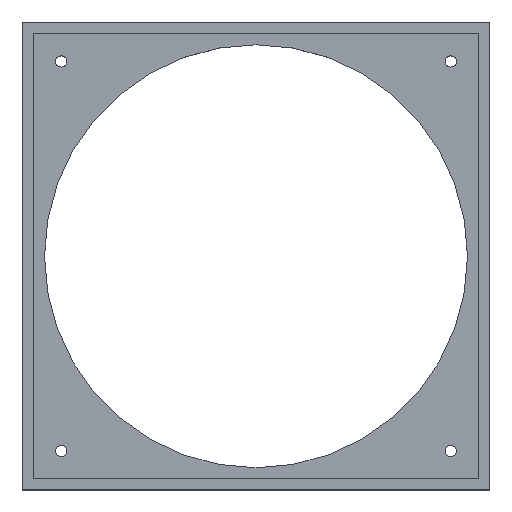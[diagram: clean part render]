
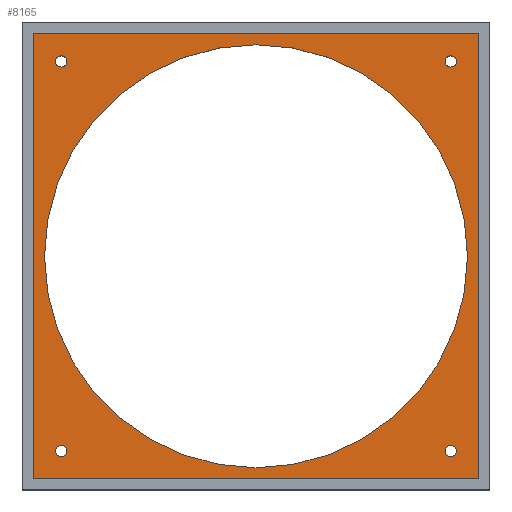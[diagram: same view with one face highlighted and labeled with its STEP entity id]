
A CAD part, top view. The second image highlights one B-rep face of the part: STEP entity #8165.
In plain terms, the highlighted planar face has unit normal (0, 0, 1).
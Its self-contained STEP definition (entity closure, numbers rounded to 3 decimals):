
#34 = VERTEX_POINT ( 'NONE', #10968 ) ;
#116 = VERTEX_POINT ( 'NONE', #5018 ) ;
#151 = CARTESIAN_POINT ( 'NONE',  ( 0., 0., 0. ) ) ;
#201 = VECTOR ( 'NONE', #11989, 1000. ) ;
#281 = ORIENTED_EDGE ( 'NONE', *, *, #5212, .T. ) ;
#1150 = VERTEX_POINT ( 'NONE', #12320 ) ;
#1435 = LINE ( 'NONE', #12154, #2696 ) ;
#1773 = AXIS2_PLACEMENT_3D ( 'NONE', #4105, #2069, #2257 ) ;
#1814 = VECTOR ( 'NONE', #9642, 1000. ) ;
#1980 = CARTESIAN_POINT ( 'NONE',  ( 54., -52.5, 0. ) ) ;
#2044 = AXIS2_PLACEMENT_3D ( 'NONE', #3374, #2361, #2418 ) ;
#2069 = DIRECTION ( 'NONE',  ( 0., 0., -1. ) ) ;
#2257 = DIRECTION ( 'NONE',  ( -1., 0., 0. ) ) ;
#2315 = AXIS2_PLACEMENT_3D ( 'NONE', #4491, #7216, #11081 ) ;
#2328 = ORIENTED_EDGE ( 'NONE', *, *, #10585, .T. ) ;
#2361 = DIRECTION ( 'NONE',  ( 0., 0., -1. ) ) ;
#2418 = DIRECTION ( 'NONE',  ( -1., 0., 0. ) ) ;
#2441 = EDGE_CURVE ( 'NONE', #12366, #7982, #6724, .T. ) ;
#2468 = CARTESIAN_POINT ( 'NONE',  ( 51., -52.5, 0. ) ) ;
#2477 = DIRECTION ( 'NONE',  ( -1., 0., 0. ) ) ;
#2538 = CARTESIAN_POINT ( 'NONE',  ( 0., 0., 0. ) ) ;
#2570 = EDGE_CURVE ( 'NONE', #7982, #116, #4307, .T. ) ;
#2595 = CARTESIAN_POINT ( 'NONE',  ( 51., 52.5, 0. ) ) ;
#2604 = ORIENTED_EDGE ( 'NONE', *, *, #2570, .T. ) ;
#2667 = DIRECTION ( 'NONE',  ( 0., 0., -1. ) ) ;
#2696 = VECTOR ( 'NONE', #8220, 1000. ) ;
#2842 = CARTESIAN_POINT ( 'NONE',  ( -51., -52.5, 0. ) ) ;
#3111 = CARTESIAN_POINT ( 'NONE',  ( -54., -52.5, 0. ) ) ;
#3213 = CARTESIAN_POINT ( 'NONE',  ( 57., 0., 0. ) ) ;
#3374 = CARTESIAN_POINT ( 'NONE',  ( 52.5, 52.5, 0. ) ) ;
#3676 = DIRECTION ( 'NONE',  ( -1., 0., 0. ) ) ;
#3698 = FACE_BOUND ( 'NONE', #5281, .T. ) ;
#3801 = CARTESIAN_POINT ( 'NONE',  ( -52.5, -52.5, 0. ) ) ;
#3908 = EDGE_CURVE ( 'NONE', #4359, #34, #10369, .T. ) ;
#3952 = FACE_BOUND ( 'NONE', #8785, .T. ) ;
#4105 = CARTESIAN_POINT ( 'NONE',  ( -52.5, 52.5, 0. ) ) ;
#4124 = EDGE_CURVE ( 'NONE', #10016, #12196, #7965, .T. ) ;
#4266 = DIRECTION ( 'NONE',  ( 0., 0., -1. ) ) ;
#4299 = FACE_BOUND ( 'NONE', #9566, .T. ) ;
#4307 = LINE ( 'NONE', #9182, #201 ) ;
#4359 = VERTEX_POINT ( 'NONE', #3213 ) ;
#4381 = CARTESIAN_POINT ( 'NONE',  ( 54., 52.5, 0. ) ) ;
#4383 = ORIENTED_EDGE ( 'NONE', *, *, #6607, .T. ) ;
#4416 = EDGE_CURVE ( 'NONE', #1150, #12366, #1435, .T. ) ;
#4491 = CARTESIAN_POINT ( 'NONE',  ( -52.5, -52.5, 0. ) ) ;
#4660 = CIRCLE ( 'NONE', #11756, 1.5 ) ;
#4776 = LINE ( 'NONE', #6858, #9583 ) ;
#4787 = DIRECTION ( 'NONE',  ( -1., 0., 0. ) ) ;
#4809 = CIRCLE ( 'NONE', #11906, 1.5 ) ;
#4907 = AXIS2_PLACEMENT_3D ( 'NONE', #151, #8891, #5913 ) ;
#4976 = DIRECTION ( 'NONE',  ( 0., 0., -1. ) ) ;
#5018 = CARTESIAN_POINT ( 'NONE',  ( -60., -60., 0. ) ) ;
#5212 = EDGE_CURVE ( 'NONE', #34, #4359, #8304, .T. ) ;
#5281 = EDGE_LOOP ( 'NONE', ( #8481, #4383 ) ) ;
#5291 = AXIS2_PLACEMENT_3D ( 'NONE', #6166, #4266, #2477 ) ;
#5345 = ORIENTED_EDGE ( 'NONE', *, *, #9508, .T. ) ;
#5371 = EDGE_CURVE ( 'NONE', #7513, #5973, #4660, .T. ) ;
#5526 = AXIS2_PLACEMENT_3D ( 'NONE', #12369, #6716, #7535 ) ;
#5614 = FACE_BOUND ( 'NONE', #11592, .T. ) ;
#5694 = ORIENTED_EDGE ( 'NONE', *, *, #12061, .T. ) ;
#5780 = CARTESIAN_POINT ( 'NONE',  ( -60., 60., 0. ) ) ;
#5785 = AXIS2_PLACEMENT_3D ( 'NONE', #11697, #4976, #4787 ) ;
#5910 = DIRECTION ( 'NONE',  ( 1., 0., 0. ) ) ;
#5913 = DIRECTION ( 'NONE',  ( -1., 0., 0. ) ) ;
#5973 = VERTEX_POINT ( 'NONE', #2842 ) ;
#6166 = CARTESIAN_POINT ( 'NONE',  ( -52.5, 52.5, 0. ) ) ;
#6225 = DIRECTION ( 'NONE',  ( -1., 0., 0. ) ) ;
#6607 = EDGE_CURVE ( 'NONE', #12532, #8793, #10141, .T. ) ;
#6610 = EDGE_CURVE ( 'NONE', #8257, #10634, #11554, .T. ) ;
#6659 = DIRECTION ( 'NONE',  ( 0., 0., -1. ) ) ;
#6716 = DIRECTION ( 'NONE',  ( 0., 0., -1. ) ) ;
#6724 = LINE ( 'NONE', #5780, #1814 ) ;
#6758 = EDGE_LOOP ( 'NONE', ( #5694, #9175, #10279, #2604 ) ) ;
#6858 = CARTESIAN_POINT ( 'NONE',  ( -60., -60., 0. ) ) ;
#6867 = PLANE ( 'NONE',  #5785 ) ;
#6899 = CARTESIAN_POINT ( 'NONE',  ( -60., 60., 0. ) ) ;
#7216 = DIRECTION ( 'NONE',  ( 0., 0., -1. ) ) ;
#7475 = CARTESIAN_POINT ( 'NONE',  ( 60., 60., 0. ) ) ;
#7477 = CARTESIAN_POINT ( 'NONE',  ( 52.5, -52.5, 0. ) ) ;
#7513 = VERTEX_POINT ( 'NONE', #3111 ) ;
#7535 = DIRECTION ( 'NONE',  ( -1., 0., 0. ) ) ;
#7653 = ORIENTED_EDGE ( 'NONE', *, *, #5371, .T. ) ;
#7656 = CARTESIAN_POINT ( 'NONE',  ( 52.5, -52.5, 0. ) ) ;
#7751 = CIRCLE ( 'NONE', #5526, 1.5 ) ;
#7901 = EDGE_CURVE ( 'NONE', #8793, #12532, #7751, .T. ) ;
#7965 = CIRCLE ( 'NONE', #9766, 1.5 ) ;
#7982 = VERTEX_POINT ( 'NONE', #6899 ) ;
#8165 = ADVANCED_FACE ( 'NONE', ( #4299, #10249, #5614, #3698, #3952, #12460 ), #6867, .F. ) ;
#8220 = DIRECTION ( 'NONE',  ( 0., 1., 0. ) ) ;
#8257 = VERTEX_POINT ( 'NONE', #9849 ) ;
#8304 = CIRCLE ( 'NONE', #11545, 57. ) ;
#8434 = DIRECTION ( 'NONE',  ( -1., 0., 0. ) ) ;
#8481 = ORIENTED_EDGE ( 'NONE', *, *, #7901, .T. ) ;
#8785 = EDGE_LOOP ( 'NONE', ( #10708, #281 ) ) ;
#8793 = VERTEX_POINT ( 'NONE', #4381 ) ;
#8853 = EDGE_LOOP ( 'NONE', ( #2328, #7653 ) ) ;
#8871 = ORIENTED_EDGE ( 'NONE', *, *, #4124, .T. ) ;
#8891 = DIRECTION ( 'NONE',  ( 0., 0., -1. ) ) ;
#9135 = DIRECTION ( 'NONE',  ( 0., 0., -1. ) ) ;
#9175 = ORIENTED_EDGE ( 'NONE', *, *, #4416, .T. ) ;
#9182 = CARTESIAN_POINT ( 'NONE',  ( -60., 60., 0. ) ) ;
#9377 = EDGE_CURVE ( 'NONE', #12196, #10016, #4809, .T. ) ;
#9508 = EDGE_CURVE ( 'NONE', #10634, #8257, #10678, .T. ) ;
#9566 = EDGE_LOOP ( 'NONE', ( #11963, #8871 ) ) ;
#9583 = VECTOR ( 'NONE', #5910, 1000. ) ;
#9642 = DIRECTION ( 'NONE',  ( -1., 0., 0. ) ) ;
#9766 = AXIS2_PLACEMENT_3D ( 'NONE', #7477, #6659, #8434 ) ;
#9849 = CARTESIAN_POINT ( 'NONE',  ( -51., 52.5, 0. ) ) ;
#9896 = ORIENTED_EDGE ( 'NONE', *, *, #6610, .T. ) ;
#10016 = VERTEX_POINT ( 'NONE', #2468 ) ;
#10141 = CIRCLE ( 'NONE', #2044, 1.5 ) ;
#10249 = FACE_BOUND ( 'NONE', #8853, .T. ) ;
#10279 = ORIENTED_EDGE ( 'NONE', *, *, #2441, .T. ) ;
#10369 = CIRCLE ( 'NONE', #4907, 57. ) ;
#10504 = DIRECTION ( 'NONE',  ( 0., 0., -1. ) ) ;
#10585 = EDGE_CURVE ( 'NONE', #5973, #7513, #11022, .T. ) ;
#10634 = VERTEX_POINT ( 'NONE', #11652 ) ;
#10678 = CIRCLE ( 'NONE', #1773, 1.5 ) ;
#10708 = ORIENTED_EDGE ( 'NONE', *, *, #3908, .T. ) ;
#10968 = CARTESIAN_POINT ( 'NONE',  ( -57., 0., 0. ) ) ;
#11022 = CIRCLE ( 'NONE', #2315, 1.5 ) ;
#11081 = DIRECTION ( 'NONE',  ( -1., 0., 0. ) ) ;
#11545 = AXIS2_PLACEMENT_3D ( 'NONE', #2538, #9135, #6225 ) ;
#11554 = CIRCLE ( 'NONE', #5291, 1.5 ) ;
#11592 = EDGE_LOOP ( 'NONE', ( #9896, #5345 ) ) ;
#11652 = CARTESIAN_POINT ( 'NONE',  ( -54., 52.5, 0. ) ) ;
#11697 = CARTESIAN_POINT ( 'NONE',  ( 0., 0., 0. ) ) ;
#11756 = AXIS2_PLACEMENT_3D ( 'NONE', #3801, #2667, #3676 ) ;
#11906 = AXIS2_PLACEMENT_3D ( 'NONE', #7656, #10504, #12539 ) ;
#11963 = ORIENTED_EDGE ( 'NONE', *, *, #9377, .T. ) ;
#11989 = DIRECTION ( 'NONE',  ( 0., -1., 0. ) ) ;
#12061 = EDGE_CURVE ( 'NONE', #116, #1150, #4776, .T. ) ;
#12154 = CARTESIAN_POINT ( 'NONE',  ( 60., 60., 0. ) ) ;
#12196 = VERTEX_POINT ( 'NONE', #1980 ) ;
#12320 = CARTESIAN_POINT ( 'NONE',  ( 60., -60., 0. ) ) ;
#12366 = VERTEX_POINT ( 'NONE', #7475 ) ;
#12369 = CARTESIAN_POINT ( 'NONE',  ( 52.5, 52.5, 0. ) ) ;
#12460 = FACE_OUTER_BOUND ( 'NONE', #6758, .T. ) ;
#12532 = VERTEX_POINT ( 'NONE', #2595 ) ;
#12539 = DIRECTION ( 'NONE',  ( -1., 0., 0. ) ) ;
